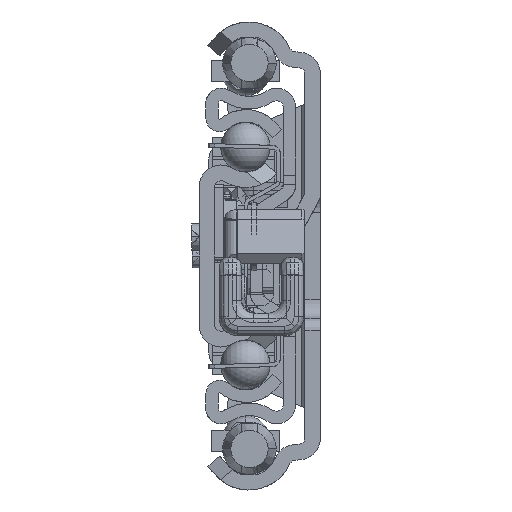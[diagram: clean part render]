
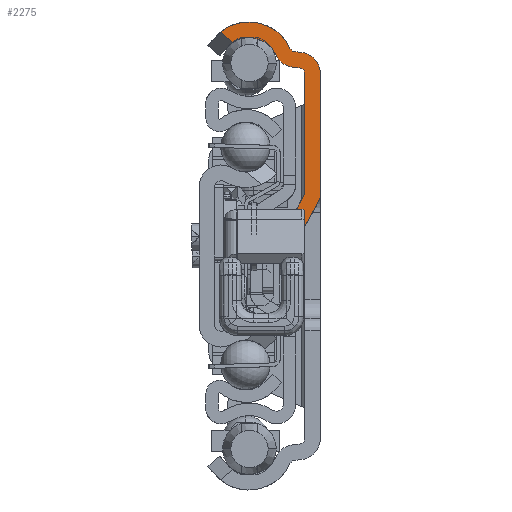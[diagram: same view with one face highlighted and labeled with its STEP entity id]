
A CAD part, left-side view. The second image highlights one B-rep face of the part: STEP entity #2275.
In plain terms, the highlighted planar face has unit normal (-1, 0, 0).
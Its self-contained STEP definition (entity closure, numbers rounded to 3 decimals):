
#1=DIRECTION('',(0.,-0.769,-0.639));
#2=VECTOR('',#1,2.575);
#3=CARTESIAN_POINT('',(0.,16.079,36.021));
#4=LINE('',#3,#2);
#5=CARTESIAN_POINT('',(0.,11.5,30.4));
#6=DIRECTION('',(1.,0.,0.));
#7=DIRECTION('',(0.,0.632,0.775));
#8=AXIS2_PLACEMENT_3D('',#5,#6,#7);
#10=DIRECTION('',(0.,-0.996,-0.087));
#11=VECTOR('',#10,0.904);
#12=CARTESIAN_POINT('',(0.,4.095,32.858));
#13=LINE('',#12,#11);
#14=CARTESIAN_POINT('',(0.,3.5,29.293));
#15=DIRECTION('',(-1.,0.,0.));
#16=DIRECTION('',(0.,-1.,0.));
#17=AXIS2_PLACEMENT_3D('',#14,#15,#16);
#19=CARTESIAN_POINT('',(0.,2.5,9.942));
#20=DIRECTION('',(1.,0.,0.));
#21=DIRECTION('',(0.,-1.,0.));
#22=AXIS2_PLACEMENT_3D('',#19,#20,#21);
#24=DIRECTION('',(0.,-1.,0.));
#25=VECTOR('',#24,2.78);
#26=CARTESIAN_POINT('',(0.,6.177,3.04));
#27=LINE('',#26,#25);
#28=CARTESIAN_POINT('',(0.,0.5,1.099));
#29=DIRECTION('',(-1.,0.,0.));
#30=DIRECTION('',(0.,0.879,0.477));
#31=AXIS2_PLACEMENT_3D('',#28,#29,#30);
#33=DIRECTION('',(0.,0.477,-0.879));
#34=VECTOR('',#33,6.873);
#35=CARTESIAN_POINT('',(0.,2.5,10.));
#36=LINE('',#35,#34);
#37=DIRECTION('',(0.,0.,1.));
#38=VECTOR('',#37,19.293);
#39=CARTESIAN_POINT('',(0.,2.5,10.));
#40=LINE('',#39,#38);
#41=DIRECTION('',(0.,0.996,0.087));
#42=VECTOR('',#41,0.904);
#43=CARTESIAN_POINT('',(0.,3.413,30.289));
#44=LINE('',#43,#42);
#45=CARTESIAN_POINT('',(0.,4.008,33.854));
#46=DIRECTION('',(-1.,0.,0.));
#47=DIRECTION('',(0.,0.908,-0.419));
#48=AXIS2_PLACEMENT_3D('',#45,#46,#47);
#50=CARTESIAN_POINT('',(0.,11.5,30.4));
#51=DIRECTION('',(-1.,0.,0.));
#52=DIRECTION('',(0.,-0.908,0.419));
#53=AXIS2_PLACEMENT_3D('',#50,#51,#52);
#99=CARTESIAN_POINT('',(0.,14.098,34.377));
#147=CARTESIAN_POINT('',(0.,3.5,29.293));
#148=DIRECTION('',(1.,0.,0.));
#149=DIRECTION('',(0.,-0.087,0.996));
#150=AXIS2_PLACEMENT_3D('',#147,#148,#149);
#635=DIRECTION('',(0.,0.,1.));
#636=VECTOR('',#635,19.351);
#637=CARTESIAN_POINT('',(0.,0.,9.942));
#638=LINE('',#637,#636);
#956=CARTESIAN_POINT('',(0.,16.079,
36.021));
#1393=CARTESIAN_POINT('',(0.,4.008,33.854));
#1394=DIRECTION('',(1.,0.,0.));
#1395=DIRECTION('',(0.,0.087,-0.996));
#1396=AXIS2_PLACEMENT_3D('',#1393,#1394,#1395);
#1490=CARTESIAN_POINT('',(0.,3.397,3.04));
#1495=DIRECTION('',(0.,-0.477,0.879));
#1496=VECTOR('',#1495,6.495);
#1497=CARTESIAN_POINT('',(0.,3.397,3.04));
#1498=LINE('',#1497,#1496);
#1741=CARTESIAN_POINT('',(0.,3.413,30.289));
#1742=CARTESIAN_POINT('',(0.,2.5,29.293));
#1743=VERTEX_POINT('',#1741);
#1744=VERTEX_POINT('',#1742);
#1745=CARTESIAN_POINT('',(0.,4.095,32.858));
#1746=CARTESIAN_POINT('',(0.,4.916,33.436));
#1747=VERTEX_POINT('',#1745);
#1748=VERTEX_POINT('',#1746);
#1757=CARTESIAN_POINT('',(0.,7.186,32.389));
#1758=CARTESIAN_POINT('',(0.,4.313,30.368));
#1759=VERTEX_POINT('',#1757);
#1760=VERTEX_POINT('',#1758);
#1761=CARTESIAN_POINT('',(0.,0.,29.293));
#1762=CARTESIAN_POINT('',(0.,3.195,
32.78));
#1763=VERTEX_POINT('',#1761);
#1764=VERTEX_POINT('',#1762);
#1857=CARTESIAN_POINT('',(0.,2.5,10.));
#1858=VERTEX_POINT('',#1857);
#1917=CARTESIAN_POINT('',(0.,0.,9.942));
#1919=VERTEX_POINT('',#1917);
#1922=CARTESIAN_POINT('',(0.,0.302,8.751));
#1923=VERTEX_POINT('',#1922);
#1926=CARTESIAN_POINT('',(0.,5.775,3.958));
#1927=VERTEX_POINT('',#1926);
#1928=CARTESIAN_POINT('',(0.,6.177,3.04));
#1929=VERTEX_POINT('',#1928);
#1932=VERTEX_POINT('',#1490);
#2194=VERTEX_POINT('',#99);
#2202=VERTEX_POINT('',#956);
#2236=CARTESIAN_POINT('',(0.,0.,0.));
#2237=DIRECTION('',(1.,0.,0.));
#2238=DIRECTION('',(0.,-1.,0.));
#2239=AXIS2_PLACEMENT_3D('',#2236,#2237,#2238);
#2240=PLANE('',#2239);
#2242=ORIENTED_EDGE('',*,*,#2241,.F.);
#2244=ORIENTED_EDGE('',*,*,#2243,.T.);
#2246=ORIENTED_EDGE('',*,*,#2245,.F.);
#2248=ORIENTED_EDGE('',*,*,#2247,.T.);
#2250=ORIENTED_EDGE('',*,*,#2249,.F.);
#2252=ORIENTED_EDGE('',*,*,#2251,.F.);
#2254=ORIENTED_EDGE('',*,*,#2253,.T.);
#2256=ORIENTED_EDGE('',*,*,#2255,.F.);
#2258=ORIENTED_EDGE('',*,*,#2257,.F.);
#2260=ORIENTED_EDGE('',*,*,#2259,.F.);
#2262=ORIENTED_EDGE('',*,*,#2261,.F.);
#2264=ORIENTED_EDGE('',*,*,#2263,.T.);
#2266=ORIENTED_EDGE('',*,*,#2265,.F.);
#2268=ORIENTED_EDGE('',*,*,#2267,.T.);
#2270=ORIENTED_EDGE('',*,*,#2269,.F.);
#2272=ORIENTED_EDGE('',*,*,#2271,.T.);
#2273=EDGE_LOOP('',(#2242,#2244,#2246,#2248,#2250,#2252,#2254,#2256,#2258,#2260,
#2262,#2264,#2266,#2268,#2270,#2272));
#2274=FACE_OUTER_BOUND('',#2273,.F.);
#9=CIRCLE('',#8,7.25);
#18=CIRCLE('',#17,3.5);
#23=CIRCLE('',#22,2.5);
#32=CIRCLE('',#31,6.);
#49=CIRCLE('',#48,3.5);
#54=CIRCLE('',#53,4.75);
#151=CIRCLE('',#150,1.);
#1397=CIRCLE('',#1396,1.);
#2241=EDGE_CURVE('',#2202,#2194,#4,.T.);
#2243=EDGE_CURVE('',#2202,#1748,#9,.T.);
#2245=EDGE_CURVE('',#1747,#1748,#1397,.T.);
#2247=EDGE_CURVE('',#1747,#1764,#13,.T.);
#2249=EDGE_CURVE('',#1763,#1764,#18,.T.);
#2251=EDGE_CURVE('',#1919,#1763,#638,.T.);
#2253=EDGE_CURVE('',#1919,#1923,#23,.T.);
#2255=EDGE_CURVE('',#1932,#1923,#1498,.T.);
#2257=EDGE_CURVE('',#1929,#1932,#27,.T.);
#2259=EDGE_CURVE('',#1927,#1929,#32,.T.);
#2261=EDGE_CURVE('',#1858,#1927,#36,.T.);
#2263=EDGE_CURVE('',#1858,#1744,#40,.T.);
#2265=EDGE_CURVE('',#1743,#1744,#151,.T.);
#2267=EDGE_CURVE('',#1743,#1760,#44,.T.);
#2269=EDGE_CURVE('',#1759,#1760,#49,.T.);
#2271=EDGE_CURVE('',#1759,#2194,#54,.T.);
#2275=ADVANCED_FACE('',(#2274),#2240,.F.);
